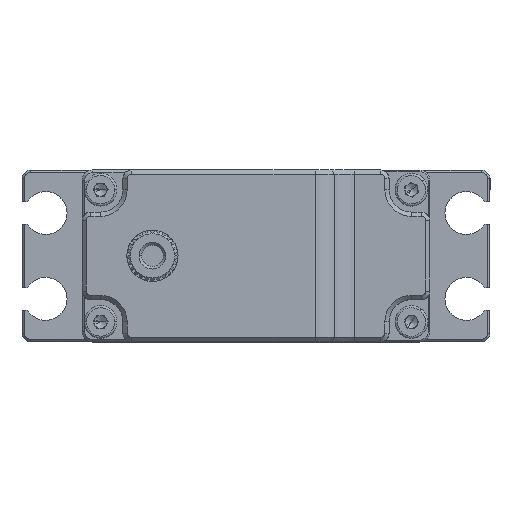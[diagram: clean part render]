
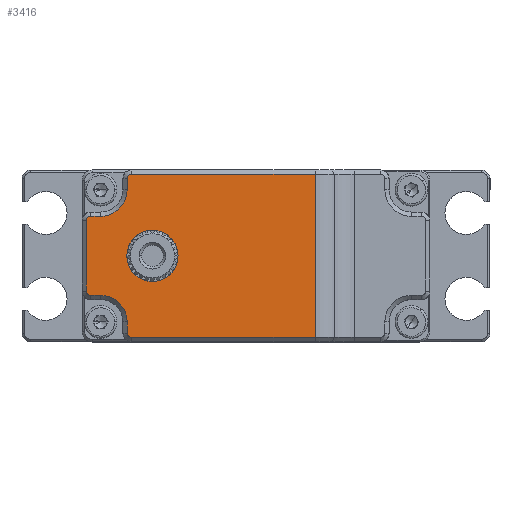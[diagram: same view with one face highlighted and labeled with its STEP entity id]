
A CAD part, top view. The second image highlights one B-rep face of the part: STEP entity #3416.
In plain terms, the highlighted planar face has unit normal (0, 0, 1).
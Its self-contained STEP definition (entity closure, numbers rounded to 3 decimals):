
#124 = DIRECTION ( 'NONE',  ( -1., 0., 0. ) ) ;
#180 = DIRECTION ( 'NONE',  ( 0., 0., -1. ) ) ;
#354 = ORIENTED_EDGE ( 'NONE', *, *, #11888, .F. ) ;
#546 = CARTESIAN_POINT ( 'NONE',  ( -103.913, 6.405, 12.8 ) ) ;
#560 = VERTEX_POINT ( 'NONE', #11646 ) ;
#822 = VECTOR ( 'NONE', #2683, 1000. ) ;
#830 = ORIENTED_EDGE ( 'NONE', *, *, #19384, .T. ) ;
#881 = VECTOR ( 'NONE', #2664, 1000. ) ;
#942 = ORIENTED_EDGE ( 'NONE', *, *, #17023, .T. ) ;
#955 = EDGE_CURVE ( 'NONE', #1296, #1416, #6515, .T. ) ;
#981 = VECTOR ( 'NONE', #5343, 1000. ) ;
#1037 = DIRECTION ( 'NONE',  ( 1., 0., 0. ) ) ;
#1296 = VERTEX_POINT ( 'NONE', #10787 ) ;
#1416 = VERTEX_POINT ( 'NONE', #6658 ) ;
#1439 = DIRECTION ( 'NONE',  ( -1., 0., 0. ) ) ;
#1517 = CARTESIAN_POINT ( 'NONE',  ( -103.913, 23.105, 12.8 ) ) ;
#1969 = EDGE_CURVE ( 'NONE', #6952, #14232, #5043, .T. ) ;
#2058 = AXIS2_PLACEMENT_3D ( 'NONE', #14955, #19451, #7315 ) ;
#2110 = CARTESIAN_POINT ( 'NONE',  ( -107.013, 9.505, 12.8 ) ) ;
#2258 = LINE ( 'NONE', #11727, #822 ) ;
#2578 = AXIS2_PLACEMENT_3D ( 'NONE', #10817, #2939, #1439 ) ;
#2619 = EDGE_CURVE ( 'NONE', #8694, #4902, #19684, .T. ) ;
#2664 = DIRECTION ( 'NONE',  ( 0., -1., 0. ) ) ;
#2683 = DIRECTION ( 'NONE',  ( 1., 0., 0. ) ) ;
#2746 = CARTESIAN_POINT ( 'NONE',  ( -107.013, 6.405, 12.8 ) ) ;
#2939 = DIRECTION ( 'NONE',  ( 0., 0., -1. ) ) ;
#3369 = VECTOR ( 'NONE', #18216, 1000. ) ;
#3416 = ADVANCED_FACE ( 'NONE', ( #7620, #15097 ), #13268, .T. ) ;
#3452 = DIRECTION ( 'NONE',  ( 1., 0., 0. ) ) ;
#3646 = VECTOR ( 'NONE', #17734, 1000. ) ;
#3877 = ORIENTED_EDGE ( 'NONE', *, *, #4584, .T. ) ;
#3920 = VERTEX_POINT ( 'NONE', #6775 ) ;
#3942 = CARTESIAN_POINT ( 'NONE',  ( -108.663, 6.405, 12.8 ) ) ;
#4117 = DIRECTION ( 'NONE',  ( 0., 0., 1. ) ) ;
#4235 = DIRECTION ( 'NONE',  ( 0., 0., 1. ) ) ;
#4584 = EDGE_CURVE ( 'NONE', #6952, #5257, #13032, .T. ) ;
#4683 = DIRECTION ( 'NONE',  ( 0., 1., 0. ) ) ;
#4902 = VERTEX_POINT ( 'NONE', #7683 ) ;
#5025 = VERTEX_POINT ( 'NONE', #12645 ) ;
#5043 = CIRCLE ( 'NONE', #12904, 0.5 ) ;
#5167 = CIRCLE ( 'NONE', #9352, 0.5 ) ;
#5198 = EDGE_CURVE ( 'NONE', #10601, #560, #5695, .T. ) ;
#5257 = VERTEX_POINT ( 'NONE', #19522 ) ;
#5343 = DIRECTION ( 'NONE',  ( 0., -1., 0. ) ) ;
#5522 = DIRECTION ( 'NONE',  ( 1., 0., 0. ) ) ;
#5598 = AXIS2_PLACEMENT_3D ( 'NONE', #2746, #14980, #12038 ) ;
#5623 = CIRCLE ( 'NONE', #6846, 0.5 ) ;
#5624 = VERTEX_POINT ( 'NONE', #13015 ) ;
#5695 = LINE ( 'NONE', #10485, #881 ) ;
#5996 = ORIENTED_EDGE ( 'NONE', *, *, #14493, .T. ) ;
#6114 = EDGE_CURVE ( 'NONE', #4902, #8694, #19841, .T. ) ;
#6146 = CARTESIAN_POINT ( 'NONE',  ( -82.025, 6.405, 12.8 ) ) ;
#6154 = DIRECTION ( 'NONE',  ( 0., 0., -1. ) ) ;
#6303 = CARTESIAN_POINT ( 'NONE',  ( -100.973, 14.105, 12.8 ) ) ;
#6316 = EDGE_CURVE ( 'NONE', #11076, #18057, #5623, .T. ) ;
#6503 = EDGE_CURVE ( 'NONE', #1296, #560, #7283, .T. ) ;
#6506 = CARTESIAN_POINT ( 'NONE',  ( -108.663, 18.205, 12.8 ) ) ;
#6515 = LINE ( 'NONE', #6939, #3646 ) ;
#6658 = CARTESIAN_POINT ( 'NONE',  ( -82.025, 4.605, 12.8 ) ) ;
#6661 = EDGE_LOOP ( 'NONE', ( #18661, #6712, #16366, #354, #11133, #5996, #12625, #830, #8833, #3877, #15426, #942, #18947, #11313 ) ) ;
#6712 = ORIENTED_EDGE ( 'NONE', *, *, #955, .T. ) ;
#6732 = DIRECTION ( 'NONE',  ( 0., -1., 0. ) ) ;
#6775 = CARTESIAN_POINT ( 'NONE',  ( -108.163, 9.505, 12.8 ) ) ;
#6846 = AXIS2_PLACEMENT_3D ( 'NONE', #19279, #17848, #11708 ) ;
#6939 = CARTESIAN_POINT ( 'NONE',  ( -107.013, 4.605, 12.8 ) ) ;
#6952 = VERTEX_POINT ( 'NONE', #6506 ) ;
#7273 = VECTOR ( 'NONE', #6732, 1000. ) ;
#7283 = CIRCLE ( 'NONE', #2578, 0.5 ) ;
#7315 = DIRECTION ( 'NONE',  ( 1., 0., 0. ) ) ;
#7512 = VERTEX_POINT ( 'NONE', #14607 ) ;
#7620 = FACE_OUTER_BOUND ( 'NONE', #6661, .T. ) ;
#7645 = CARTESIAN_POINT ( 'NONE',  ( -97.993, 14.105, 12.8 ) ) ;
#7683 = CARTESIAN_POINT ( 'NONE',  ( -103.953, 14.105, 12.8 ) ) ;
#7704 = ORIENTED_EDGE ( 'NONE', *, *, #2619, .T. ) ;
#8175 = LINE ( 'NONE', #6146, #3369 ) ;
#8694 = VERTEX_POINT ( 'NONE', #7645 ) ;
#8833 = ORIENTED_EDGE ( 'NONE', *, *, #1969, .F. ) ;
#8946 = DIRECTION ( 'NONE',  ( -1., 0., 0. ) ) ;
#9348 = CARTESIAN_POINT ( 'NONE',  ( -107.013, 18.705, 12.8 ) ) ;
#9352 = AXIS2_PLACEMENT_3D ( 'NONE', #18109, #4235, #8946 ) ;
#9844 = EDGE_CURVE ( 'NONE', #9892, #5025, #16412, .T. ) ;
#9892 = VERTEX_POINT ( 'NONE', #13321 ) ;
#10248 = EDGE_CURVE ( 'NONE', #1416, #7512, #8175, .T. ) ;
#10287 = CIRCLE ( 'NONE', #5598, 3.1 ) ;
#10485 = CARTESIAN_POINT ( 'NONE',  ( -103.913, 6.405, 12.8 ) ) ;
#10601 = VERTEX_POINT ( 'NONE', #18898 ) ;
#10787 = CARTESIAN_POINT ( 'NONE',  ( -103.413, 4.605, 12.8 ) ) ;
#10817 = CARTESIAN_POINT ( 'NONE',  ( -103.413, 5.105, 12.8 ) ) ;
#10865 = EDGE_CURVE ( 'NONE', #5624, #10601, #10287, .T. ) ;
#11076 = VERTEX_POINT ( 'NONE', #1517 ) ;
#11133 = ORIENTED_EDGE ( 'NONE', *, *, #6316, .F. ) ;
#11313 = ORIENTED_EDGE ( 'NONE', *, *, #5198, .T. ) ;
#11363 = LINE ( 'NONE', #2110, #18120 ) ;
#11380 = CARTESIAN_POINT ( 'NONE',  ( -100.973, 14.105, 12.8 ) ) ;
#11413 = EDGE_CURVE ( 'NONE', #5257, #3920, #5167, .T. ) ;
#11525 = VECTOR ( 'NONE', #124, 1000. ) ;
#11646 = CARTESIAN_POINT ( 'NONE',  ( -103.913, 5.105, 12.8 ) ) ;
#11708 = DIRECTION ( 'NONE',  ( -1., 0., 0. ) ) ;
#11727 = CARTESIAN_POINT ( 'NONE',  ( -107.013, 23.605, 12.8 ) ) ;
#11779 = CARTESIAN_POINT ( 'NONE',  ( -107.013, 6.405, 12.8 ) ) ;
#11888 = EDGE_CURVE ( 'NONE', #18057, #7512, #2258, .T. ) ;
#12038 = DIRECTION ( 'NONE',  ( 1., 0., 0. ) ) ;
#12625 = ORIENTED_EDGE ( 'NONE', *, *, #9844, .T. ) ;
#12645 = CARTESIAN_POINT ( 'NONE',  ( -107.013, 18.705, 12.8 ) ) ;
#12904 = AXIS2_PLACEMENT_3D ( 'NONE', #13842, #6154, #4683 ) ;
#13015 = CARTESIAN_POINT ( 'NONE',  ( -107.013, 9.505, 12.8 ) ) ;
#13032 = LINE ( 'NONE', #3942, #981 ) ;
#13066 = CARTESIAN_POINT ( 'NONE',  ( -103.413, 23.605, 12.8 ) ) ;
#13268 = PLANE ( 'NONE',  #16841 ) ;
#13321 = CARTESIAN_POINT ( 'NONE',  ( -103.913, 21.805, 12.8 ) ) ;
#13842 = CARTESIAN_POINT ( 'NONE',  ( -108.163, 18.205, 12.8 ) ) ;
#14232 = VERTEX_POINT ( 'NONE', #19332 ) ;
#14398 = DIRECTION ( 'NONE',  ( 1., 0., 0. ) ) ;
#14493 = EDGE_CURVE ( 'NONE', #11076, #9892, #19797, .T. ) ;
#14607 = CARTESIAN_POINT ( 'NONE',  ( -82.025, 23.605, 12.8 ) ) ;
#14955 = CARTESIAN_POINT ( 'NONE',  ( -107.013, 21.805, 12.8 ) ) ;
#14980 = DIRECTION ( 'NONE',  ( 0., 0., -1. ) ) ;
#15097 = FACE_BOUND ( 'NONE', #15629, .T. ) ;
#15289 = AXIS2_PLACEMENT_3D ( 'NONE', #6303, #180, #14398 ) ;
#15426 = ORIENTED_EDGE ( 'NONE', *, *, #11413, .T. ) ;
#15629 = EDGE_LOOP ( 'NONE', ( #7704, #18590 ) ) ;
#15644 = LINE ( 'NONE', #9348, #11525 ) ;
#16366 = ORIENTED_EDGE ( 'NONE', *, *, #10248, .T. ) ;
#16412 = CIRCLE ( 'NONE', #2058, 3.1 ) ;
#16841 = AXIS2_PLACEMENT_3D ( 'NONE', #11779, #4117, #5522 ) ;
#17023 = EDGE_CURVE ( 'NONE', #3920, #5624, #11363, .T. ) ;
#17587 = DIRECTION ( 'NONE',  ( 0., 0., -1. ) ) ;
#17734 = DIRECTION ( 'NONE',  ( 1., 0., 0. ) ) ;
#17848 = DIRECTION ( 'NONE',  ( 0., 0., -1. ) ) ;
#18057 = VERTEX_POINT ( 'NONE', #13066 ) ;
#18109 = CARTESIAN_POINT ( 'NONE',  ( -108.163, 10.005, 12.8 ) ) ;
#18120 = VECTOR ( 'NONE', #1037, 1000. ) ;
#18216 = DIRECTION ( 'NONE',  ( 0., 1., 0. ) ) ;
#18493 = AXIS2_PLACEMENT_3D ( 'NONE', #11380, #17587, #3452 ) ;
#18590 = ORIENTED_EDGE ( 'NONE', *, *, #6114, .T. ) ;
#18661 = ORIENTED_EDGE ( 'NONE', *, *, #6503, .F. ) ;
#18898 = CARTESIAN_POINT ( 'NONE',  ( -103.913, 6.405, 12.8 ) ) ;
#18947 = ORIENTED_EDGE ( 'NONE', *, *, #10865, .T. ) ;
#19279 = CARTESIAN_POINT ( 'NONE',  ( -103.413, 23.105, 12.8 ) ) ;
#19332 = CARTESIAN_POINT ( 'NONE',  ( -108.163, 18.705, 12.8 ) ) ;
#19384 = EDGE_CURVE ( 'NONE', #5025, #14232, #15644, .T. ) ;
#19451 = DIRECTION ( 'NONE',  ( 0., 0., -1. ) ) ;
#19522 = CARTESIAN_POINT ( 'NONE',  ( -108.663, 10.005, 12.8 ) ) ;
#19684 = CIRCLE ( 'NONE', #15289, 2.98 ) ;
#19797 = LINE ( 'NONE', #546, #7273 ) ;
#19841 = CIRCLE ( 'NONE', #18493, 2.98 ) ;
